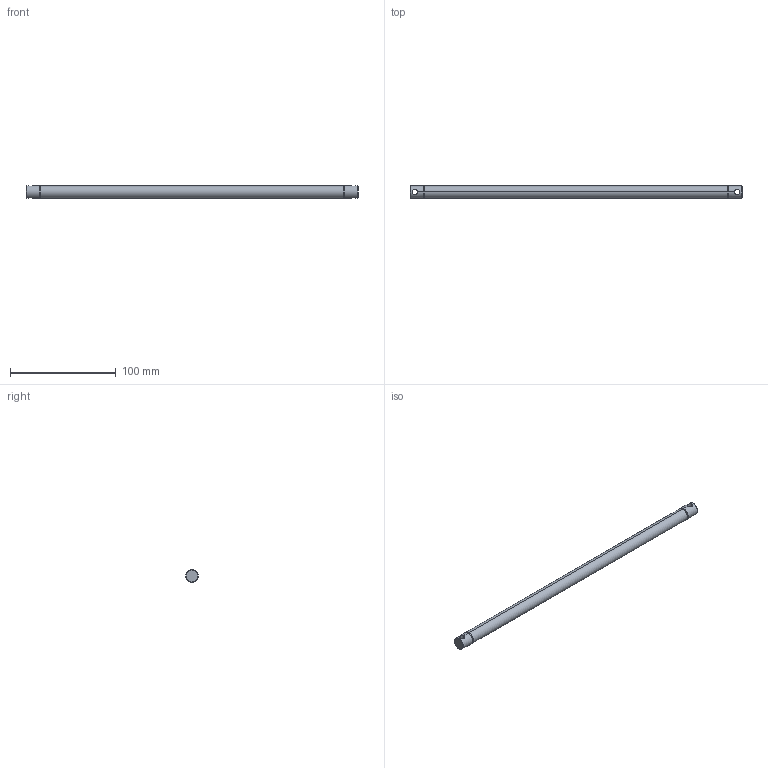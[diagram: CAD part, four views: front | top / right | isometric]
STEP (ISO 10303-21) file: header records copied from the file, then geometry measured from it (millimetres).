
FILE_DESCRIPTION (( 'STEP AP214' ), '1' );
FILE_NAME ('084.801.020.270.STEP', '2021-02-05T15:57:26', ( '' ), ( '' ), 'SwSTEP 2.0', 'SolidWorks 2018', '' );
FILE_SCHEMA (( 'AUTOMOTIVE_DESIGN' ));
Length unit declared in the file: millimetre
Products named in the file (1): 084.801.020.270
Bounding box: 314 x 12 x 12 mm (x, y, z)
Volume: 35022.3 mm3; surface area: 12354.1 mm2
Topology: 1 solids, 1 shells, 24 faces, 54 edges, 32 vertices
Faces by surface type: cylinder 14, plane 6, cone 4
Entity records: 976 total; most frequent: CARTESIAN_POINT 351, DIRECTION 120, ORIENTED_EDGE 108, EDGE_CURVE 54, AXIS2_PLACEMENT_3D 49, VERTEX_POINT 32, EDGE_LOOP 28, FACE_OUTER_BOUND 24
